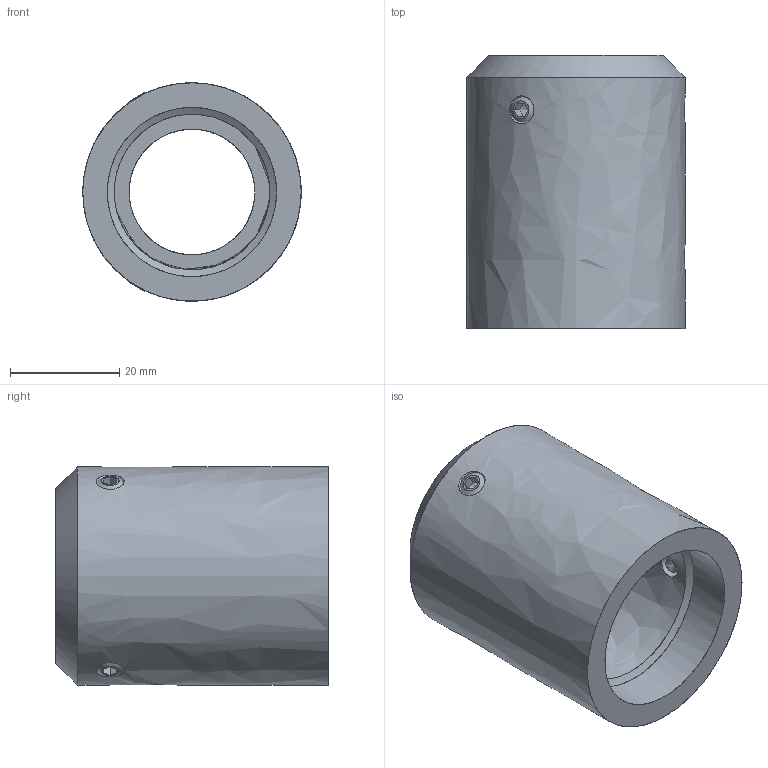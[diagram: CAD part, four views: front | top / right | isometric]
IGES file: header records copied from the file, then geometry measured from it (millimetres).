
Global section: file name: 3DCAD_TL305_AC_MF_25.igs; native system: NX V2306; preprocessor: SIEMENS PLM Software NX2306.1700; date: 20241112.153258; units: millimetre
Bounding box: 40 x 50 x 40 mm (x, y, z)
Surface area: 12611.2 mm2 (no closed solid volume)
Topology: 0 solids, 0 shells, 91 faces, 595 edges, 554 vertices
Faces by surface type: bspline 91
